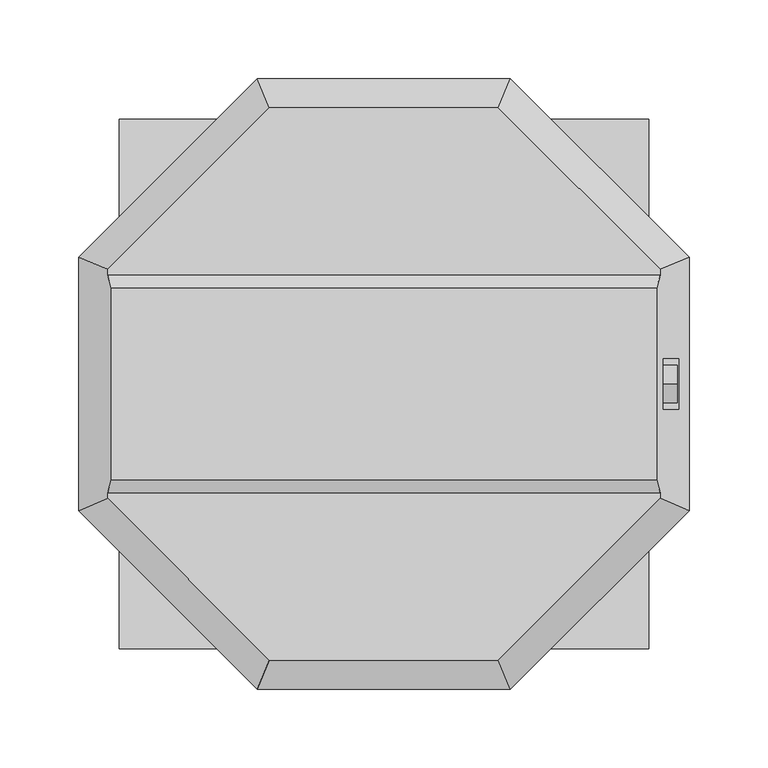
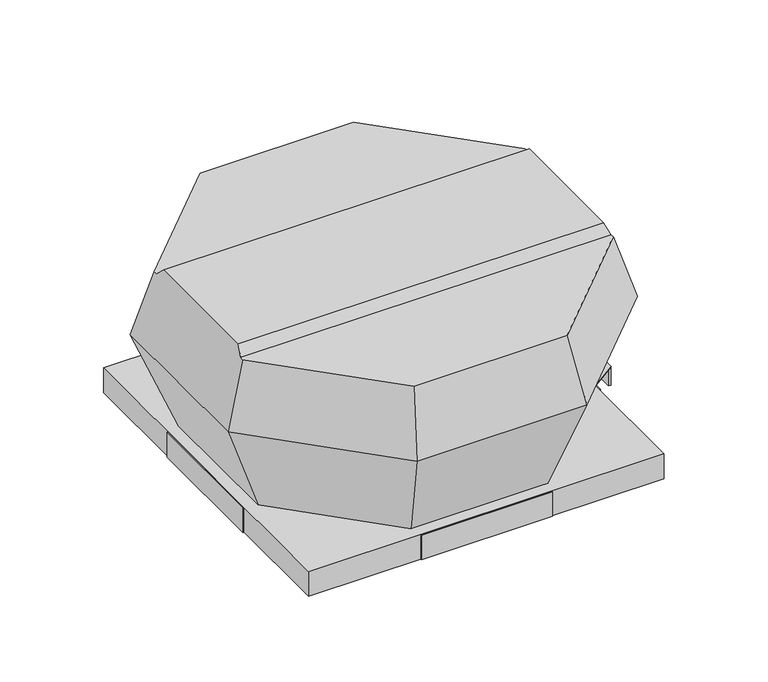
"""IFC4 building model written with IfcOpenShell, lengths in millimetres: unitary equipment geometry, VE-Wentylator-ParaForma-Harmann-VIVER_PS-Wywiewny : 4-220/400S."""

from ifc_helpers import new_model, si_unit, point, frame, frame_2d, origin, place, context, project, spatial, circle_curve, trimmed, segment, composite_curve, outline, extrude, faceted_brep, source, transform, mapped, element, save


def unitary_equipment_c2e2b98b(model_context):
    return source(origin(), model_context, "Body", "SolidModel", [
        faceted_brep([(173.5597397, -61.0, 166.2), (173.5597397, 61.0, 166.2), (-173.5597397, 61.0, 166.2), (-173.5597397, -61.0, 166.2), (175.9961687, 69.1, 158.1), (-175.9961687, 69.1, 158.1), (175.9961687, -69.1, 158.1), (-175.9961687, -69.1, 158.1), (72.9, -175.9961687, 158.1), (175.9961687, -72.9, 158.1), (-175.9961687, -72.9, 158.1), (-72.9, -175.9961687, 158.1), (175.9961687, 72.9, 158.1), (72.9, 175.9961687, 158.1), (-72.9, 175.9961687, 158.1), (-175.9961687, 72.9, 158.1), (80.55, -194.4649024, 96.7), (194.4649024, -80.55, 96.7), (194.4649024, 80.55, 96.7), (187.7872821, -16.0, 118.9), (177.8310103, -16.0, 152.0), (177.8310103, 16.0, 152.0), (187.7872821, 16.0, 118.9), (80.55, 194.4649024, 96.7), (-80.55, 194.4649024, 96.7), (-194.4649024, 80.55, 96.7), (-194.4649024, -80.55, 96.7), (-80.55, -194.4649024, 96.7), (176.8, -16.0, 118.9), (176.8, 16.0, 118.9), (176.8, 16.0, 152.0), (176.8, -16.0, 152.0), (65.1, -157.1653029, 1.0), (-65.1, -157.1653029, 1.0), (-157.1653029, -65.1, 1.0), (-157.1653029, 65.1, 1.0), (-65.1, 157.1653029, 1.0), (65.1, 157.1653029, 1.0), (157.1653029, 65.1, 1.0), (157.1653029, -65.1, 1.0)], [[[0, 1, 2, 3]], [[1, 4, 5, 2]], [[6, 0, 3, 7]], [[8, 9, 6, 7, 10, 11]], [[12, 13, 14, 15, 5, 4]], [[9, 8, 16, 17]], [[9, 17, 18, 12, 4, 1, 0, 6], [19, 20, 21, 22]], [[13, 12, 18, 23]], [[14, 13, 23, 24]], [[15, 14, 24, 25]], [[15, 25, 26, 10, 7, 3, 2, 5]], [[11, 10, 26, 27]], [[8, 11, 27, 16]], [[28, 29, 30, 31]], [[28, 31, 20, 19]], [[31, 30, 21, 20]], [[30, 29, 22, 21]], [[29, 28, 19, 22]], [[32, 33, 34, 35, 36, 37, 38, 39]], [[32, 39, 17, 16]], [[39, 38, 18, 17]], [[38, 37, 23, 18]], [[37, 36, 24, 23]], [[36, 35, 25, 24]], [[35, 34, 26, 25]], [[34, 33, 27, 26]], [[33, 32, 16, 27]]]),
        faceted_brep([(167.6, 167.6, -24.0), (167.6, 167.6, 0.0), (-167.6, 167.6, 0.0), (-167.6, 167.6, -24.0), (168.6, 168.6, 1.0), (168.6, 168.6, -24.0), (-168.6, 168.6, -24.0), (-168.6, 168.6, 1.0), (-167.6, -167.6, 0.0), (-167.6, -167.6, -24.0), (-168.6, -168.6, -24.0), (-168.6, -168.6, 1.0), (167.6, -167.6, 0.0), (167.6, -167.6, -24.0), (168.6, -168.6, -24.0), (168.6, -168.6, 1.0)], [[[0, 1, 2, 3]], [[4, 5, 6, 7]], [[3, 2, 8, 9]], [[7, 6, 10, 11]], [[9, 8, 12, 13]], [[11, 10, 14, 15]], [[13, 12, 1, 0]], [[5, 14, 10, 6], [3, 9, 13, 0]], [[15, 14, 5, 4]], [[7, 11, 15, 4]], [[1, 12, 8, 2]]]),
        extrude(outline(composite_curve([segment(trimmed(circle_curve(frame_2d((0.0, 135.4)), 12.0), [point((0.0, 147.4))], [point((0.0, 123.4))], False, "CARTESIAN"), True, "CONTINUOUS"), segment(trimmed(circle_curve(frame_2d((0.0, 135.4)), 12.0), [point((0.0, 123.4))], [point((0.0, 147.4))], False, "CARTESIAN"), True, "CONTINUOUS")], self_intersect=False)), frame((176.8, 0.0, 0.0), z_axis=(1.0, 0.0, 0.0), x_axis=(0.0, 1.0, 0.0)), (0.0, 0.0, 1.0), 10.0),
        faceted_brep([(-168.6, -62.3, -24.0), (-169.6, -62.3, -24.0), (-169.6, 62.3, -24.0), (-168.6, 62.3, -24.0), (-168.6, -62.3, 1.0), (-168.6, 62.3, 1.0), (-169.6, 62.3, 1.0), (-169.6, -62.3, 1.0)], [[[0, 1, 2, 3]], [[4, 5, 6, 7]], [[1, 0, 4, 7]], [[2, 1, 7, 6]], [[3, 2, 6, 5]], [[0, 3, 5, 4]]]),
        faceted_brep([(169.6, -62.3, -24.0), (168.6, -62.3, -24.0), (168.6, 62.3, -24.0), (169.6, 62.3, -24.0), (169.6, 62.3, 1.0), (168.6, 62.3, 1.0), (168.6, -62.3, 1.0), (169.6, -62.3, 1.0), (169.6, -54.8, 1.0), (193.6, -38.0, 1.0), (193.6, 38.0, 1.0), (169.6, 54.8, 1.0), (169.6, 54.8, 0.0), (169.6, -54.8, 0.0), (193.6, 38.0, 0.0), (191.5, 38.0, 0.0), (191.5, -38.0, 0.0), (193.6, -38.0, 0.0), (193.6, -38.0, -18.0), (193.6, 38.0, -18.0), (191.5, -38.0, -18.0), (191.5, 38.0, -18.0)], [[[0, 1, 2, 3]], [[4, 5, 6, 7, 8, 9, 10, 11]], [[1, 0, 7, 6]], [[2, 1, 6, 5]], [[3, 2, 5, 4]], [[0, 3, 4, 11, 12, 13, 8, 7]], [[12, 14, 15, 16, 17, 13]], [[14, 12, 11, 10]], [[10, 9, 17, 18, 19, 14]], [[13, 17, 9, 8]], [[20, 16, 15, 21]], [[16, 20, 18, 17]], [[21, 15, 14, 19]], [[20, 21, 19, 18]]]),
        faceted_brep([(62.3, 168.6, -24.0), (-62.3, 168.6, -24.0), (-62.3, 169.6, -24.0), (62.3, 169.6, -24.0), (62.3, 168.6, 1.0), (62.3, 169.6, 1.0), (-62.3, 169.6, 1.0), (-62.3, 168.6, 1.0)], [[[0, 1, 2, 3]], [[4, 5, 6, 7]], [[1, 0, 4, 7]], [[2, 1, 7, 6]], [[3, 2, 6, 5]], [[0, 3, 5, 4]]]),
        faceted_brep([(62.3, -169.6, -24.0), (-62.3, -169.6, -24.0), (-62.3, -168.6, -24.0), (62.3, -168.6, -24.0), (62.3, -169.6, 1.0), (62.3, -168.6, 1.0), (-62.3, -168.6, 1.0), (-62.3, -169.6, 1.0)], [[[0, 1, 2, 3]], [[4, 5, 6, 7]], [[1, 0, 4, 7]], [[2, 1, 7, 6]], [[3, 2, 6, 5]], [[0, 3, 5, 4]]]),
    ])


if __name__ == "__main__":
    model = new_model("IFC4")
    model_context = context("Model", 3, world=origin())
    ifc_project = project(units=[si_unit("LENGTHUNIT", "METRE", prefix="MILLI")], contexts=[model_context])
    site = spatial("IfcSite", under=ifc_project)
    building = spatial("IfcBuilding", under=site)
    placement = place(None, origin())
    unitary_equipment_shape = unitary_equipment_c2e2b98b(model_context)
    element("IfcUnitaryEquipment", 1, ObjectType="VE-Wentylator-ParaForma-Harmann-VIVER_PS-Wywiewny : 4-220/400S", at=placement, inside=building, context=model_context, shape_type="MappedRepresentation", body=[
        mapped(unitary_equipment_shape, transform((0.0, 0.0, 0.0), x_axis=(1.0, 0.0, 0.0), y_axis=(0.0, 1.0, 0.0), z_axis=(0.0, 0.0, 1.0))),
    ])
    save(model, "model.ifc")
